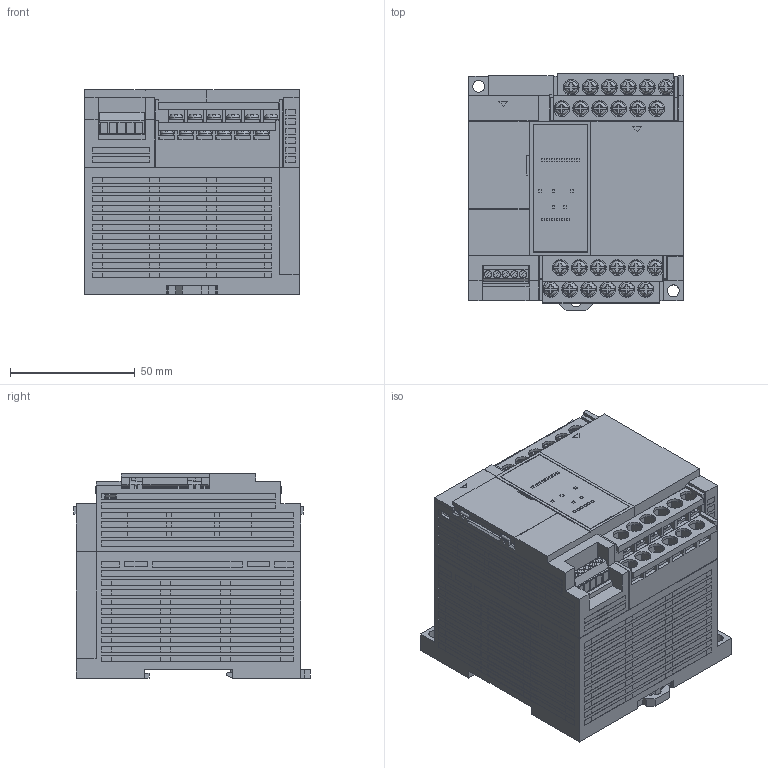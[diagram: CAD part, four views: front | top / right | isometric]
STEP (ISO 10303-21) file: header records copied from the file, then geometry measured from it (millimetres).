
FILE_DESCRIPTION (( 'STEP AP214' ), '1' );
FILE_NAME ('afp-xhc14r.STEP', '2015-07-30T08:52:25', ( 'admin' ), ( '' ), 'SwSTEP 2.0', 'SolidWorks 2010', '' );
FILE_SCHEMA (( 'AUTOMOTIVE_DESIGN' ));
Length unit declared in the file: millimetre
Products named in the file (8): afp-xhc14r; fp-xh_??????; fp-xh_cassettecover_??????; fp-xh_control_cover_??????; fp-xh_dinhook_??????; fp-xh_terminal_cover_14_out_??????; fp-xh_battery_cover_??????; fp-xh_terminal_cover_14_in_??????
Assembly tree (9 placements, depth 2):
  afp-xhc14r
    fp-xh_terminal_cover_14_out_??????  x2
    fp-xh_cassettecover_??????
    fp-xh_terminal_cover_14_in_??????  x2
    fp-xh_battery_cover_??????
    fp-xh_dinhook_??????
    fp-xh_control_cover_??????
    fp-xh_??????
Bounding box: 86 x 94.75 x 82 mm (x, y, z)
Volume: 549727.6 mm3; surface area: 81945.4 mm2
Topology: 9 solids, 9 shells, 2593 faces, 6988 edges, 4633 vertices
Faces by surface type: plane 2392, cylinder 153, bspline 48
Entity records: 82515 total; most frequent: CARTESIAN_POINT 16688, ORIENTED_EDGE 13754, DIRECTION 11724, EDGE_CURVE 6877, LINE 6102, VECTOR 6102, VERTEX_POINT 4559, AXIS2_PLACEMENT_3D 2811
